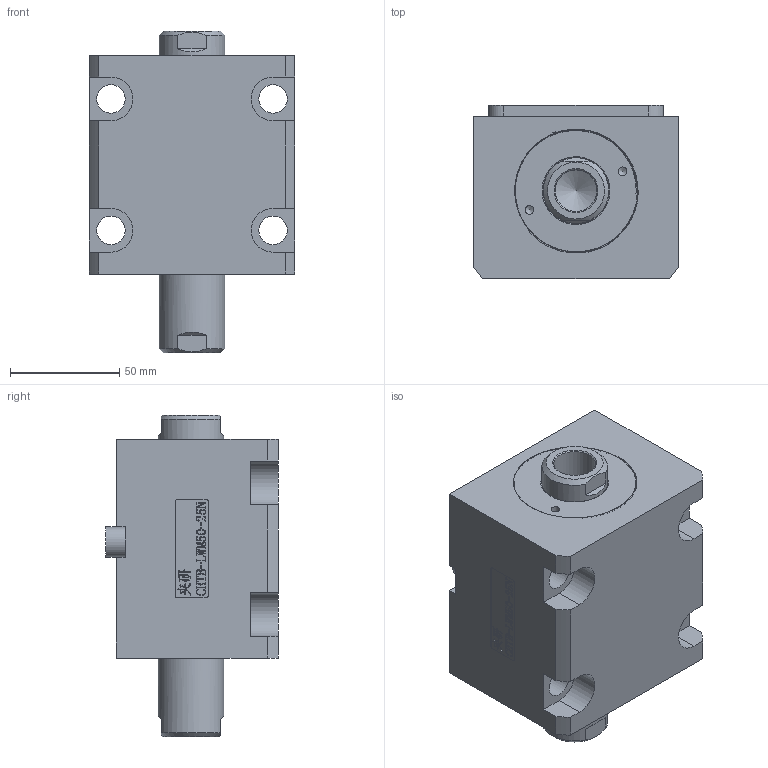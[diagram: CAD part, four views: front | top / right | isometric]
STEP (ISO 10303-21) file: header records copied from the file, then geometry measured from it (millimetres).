
FILE_DESCRIPTION(/* description */ (''),/* implementation_level */ '2;1');
FILE_NAME(/* name */ 'CHTB-LWM50-25N.stp',/* time_stamp */ '2022-04-29T18:10:20+08:00',/* author */ (''),/* organization */ (''),/* preprocessor_version */ 'ST-DEVELOPER v16.7',/* originating_system */ 'SIEMENS PLM Software NX 12.0',/* authorisation */ '');
FILE_SCHEMA (('AUTOMOTIVE_DESIGN { 1 0 10303 214 3 1 1 1 }'));
Length unit declared in the file: millimetre
Products named in the file (1): CHTB-LWM50-25N
Bounding box: 94 x 79 x 147 mm (x, y, z)
Volume: 626131.2 mm3; surface area: 110803 mm2
Topology: 3 solids, 3 shells, 482 faces, 1342 edges, 904 vertices
Faces by surface type: plane 323, extrusion 85, cylinder 44, cone 11, torus 11, bspline 8
Full cylindrical faces by diameter (mm): 4 x2, 5 x2, 12 x2, 13 x4, 19 x2, 30 x4, 39 x1, 44 x2, 46 x1, 50 x5, 59 x1
Entity records: 22575 total; most frequent: CARTESIAN_POINT 8364, ORIENTED_EDGE 2560, DIRECTION 1993, EDGE_CURVE 1280, VECTOR 1007, LINE 922, VERTEX_POINT 894, EDGE_LOOP 584
